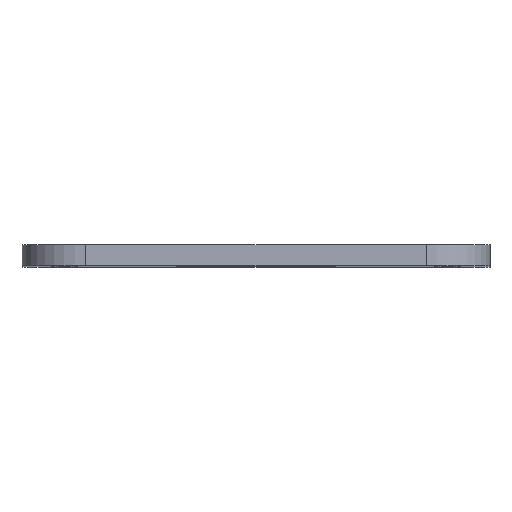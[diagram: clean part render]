
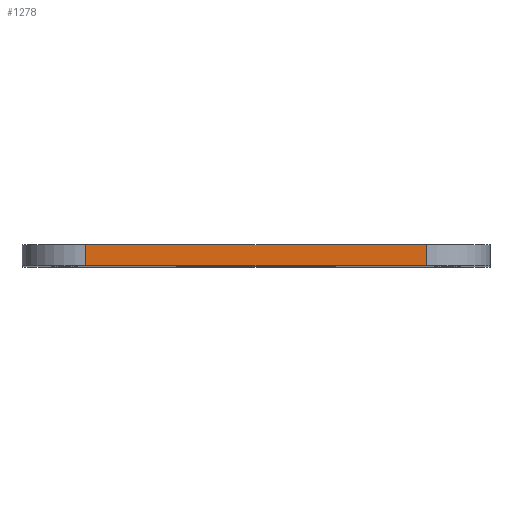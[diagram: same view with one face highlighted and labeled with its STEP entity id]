
A CAD part, top view. The second image highlights one B-rep face of the part: STEP entity #1278.
In plain terms, the highlighted planar face has unit normal (0, 0, 1).
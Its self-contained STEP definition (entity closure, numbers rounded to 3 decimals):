
#44 = PLANE('',#45);
#45 = AXIS2_PLACEMENT_3D('',#46,#47,#48);
#46 = CARTESIAN_POINT('',(42.,-2.,50.));
#47 = DIRECTION('',(-0.,-1.,-0.));
#48 = DIRECTION('',(0.,0.,-1.));
#100 = PLANE('',#101);
#101 = AXIS2_PLACEMENT_3D('',#102,#103,#104);
#102 = CARTESIAN_POINT('',(42.,0.,50.));
#103 = DIRECTION('',(-0.,-1.,-0.));
#104 = DIRECTION('',(0.,0.,-1.));
#195 = VERTEX_POINT('',#196);
#196 = CARTESIAN_POINT('',(58.,-2.,90.));
#211 = CYLINDRICAL_SURFACE('',#212,6.);
#212 = AXIS2_PLACEMENT_3D('',#213,#214,#215);
#213 = CARTESIAN_POINT('',(58.,-2.,84.));
#214 = DIRECTION('',(-0.,1.,-0.));
#215 = DIRECTION('',(1.,0.,-0.));
#223 = EDGE_CURVE('',#195,#224,#226,.T.);
#224 = VERTEX_POINT('',#225);
#225 = CARTESIAN_POINT('',(26.,-2.,90.));
#226 = SURFACE_CURVE('',#227,(#231,#238),.PCURVE_S1.);
#227 = LINE('',#228,#229);
#228 = CARTESIAN_POINT('',(64.,-2.,90.));
#229 = VECTOR('',#230,1.);
#230 = DIRECTION('',(-1.,0.,0.));
#231 = PCURVE('',#44,#232);
#232 = DEFINITIONAL_REPRESENTATION('',(#233),#237);
#233 = LINE('',#234,#235);
#234 = CARTESIAN_POINT('',(-40.,22.));
#235 = VECTOR('',#236,1.);
#236 = DIRECTION('',(0.,-1.));
#237 = ( GEOMETRIC_REPRESENTATION_CONTEXT(2) 
PARAMETRIC_REPRESENTATION_CONTEXT() REPRESENTATION_CONTEXT('2D SPACE',''
  ) );
#238 = PCURVE('',#239,#244);
#239 = PLANE('',#240);
#240 = AXIS2_PLACEMENT_3D('',#241,#242,#243);
#241 = CARTESIAN_POINT('',(64.,-2.,90.));
#242 = DIRECTION('',(0.,0.,1.));
#243 = DIRECTION('',(-1.,0.,0.));
#244 = DEFINITIONAL_REPRESENTATION('',(#245),#249);
#245 = LINE('',#246,#247);
#246 = CARTESIAN_POINT('',(0.,0.));
#247 = VECTOR('',#248,1.);
#248 = DIRECTION('',(1.,0.));
#249 = ( GEOMETRIC_REPRESENTATION_CONTEXT(2) 
PARAMETRIC_REPRESENTATION_CONTEXT() REPRESENTATION_CONTEXT('2D SPACE',''
  ) );
#268 = CYLINDRICAL_SURFACE('',#269,6.);
#269 = AXIS2_PLACEMENT_3D('',#270,#271,#272);
#270 = CARTESIAN_POINT('',(26.,-2.,84.));
#271 = DIRECTION('',(-0.,1.,-0.));
#272 = DIRECTION('',(0.,0.,1.));
#803 = VERTEX_POINT('',#804);
#804 = CARTESIAN_POINT('',(58.,0.,90.));
#826 = EDGE_CURVE('',#803,#827,#829,.T.);
#827 = VERTEX_POINT('',#828);
#828 = CARTESIAN_POINT('',(26.,0.,90.));
#829 = SURFACE_CURVE('',#830,(#834,#841),.PCURVE_S1.);
#830 = LINE('',#831,#832);
#831 = CARTESIAN_POINT('',(64.,0.,90.));
#832 = VECTOR('',#833,1.);
#833 = DIRECTION('',(-1.,0.,0.));
#834 = PCURVE('',#100,#835);
#835 = DEFINITIONAL_REPRESENTATION('',(#836),#840);
#836 = LINE('',#837,#838);
#837 = CARTESIAN_POINT('',(-40.,22.));
#838 = VECTOR('',#839,1.);
#839 = DIRECTION('',(0.,-1.));
#840 = ( GEOMETRIC_REPRESENTATION_CONTEXT(2) 
PARAMETRIC_REPRESENTATION_CONTEXT() REPRESENTATION_CONTEXT('2D SPACE',''
  ) );
#841 = PCURVE('',#239,#842);
#842 = DEFINITIONAL_REPRESENTATION('',(#843),#847);
#843 = LINE('',#844,#845);
#844 = CARTESIAN_POINT('',(0.,-2.));
#845 = VECTOR('',#846,1.);
#846 = DIRECTION('',(1.,0.));
#847 = ( GEOMETRIC_REPRESENTATION_CONTEXT(2) 
PARAMETRIC_REPRESENTATION_CONTEXT() REPRESENTATION_CONTEXT('2D SPACE',''
  ) );
#1231 = EDGE_CURVE('',#224,#827,#1232,.T.);
#1232 = SURFACE_CURVE('',#1233,(#1237,#1244),.PCURVE_S1.);
#1233 = LINE('',#1234,#1235);
#1234 = CARTESIAN_POINT('',(26.,-2.,90.));
#1235 = VECTOR('',#1236,1.);
#1236 = DIRECTION('',(-0.,1.,-0.));
#1237 = PCURVE('',#268,#1238);
#1238 = DEFINITIONAL_REPRESENTATION('',(#1239),#1243);
#1239 = LINE('',#1240,#1241);
#1240 = CARTESIAN_POINT('',(-0.,0.));
#1241 = VECTOR('',#1242,1.);
#1242 = DIRECTION('',(-0.,1.));
#1243 = ( GEOMETRIC_REPRESENTATION_CONTEXT(2) 
PARAMETRIC_REPRESENTATION_CONTEXT() REPRESENTATION_CONTEXT('2D SPACE',''
  ) );
#1244 = PCURVE('',#239,#1245);
#1245 = DEFINITIONAL_REPRESENTATION('',(#1246),#1250);
#1246 = LINE('',#1247,#1248);
#1247 = CARTESIAN_POINT('',(38.,0.));
#1248 = VECTOR('',#1249,1.);
#1249 = DIRECTION('',(0.,-1.));
#1250 = ( GEOMETRIC_REPRESENTATION_CONTEXT(2) 
PARAMETRIC_REPRESENTATION_CONTEXT() REPRESENTATION_CONTEXT('2D SPACE',''
  ) );
#1256 = EDGE_CURVE('',#195,#803,#1257,.T.);
#1257 = SURFACE_CURVE('',#1258,(#1262,#1269),.PCURVE_S1.);
#1258 = LINE('',#1259,#1260);
#1259 = CARTESIAN_POINT('',(58.,-2.,90.));
#1260 = VECTOR('',#1261,1.);
#1261 = DIRECTION('',(-0.,1.,-0.));
#1262 = PCURVE('',#211,#1263);
#1263 = DEFINITIONAL_REPRESENTATION('',(#1264),#1268);
#1264 = LINE('',#1265,#1266);
#1265 = CARTESIAN_POINT('',(-1.571,0.));
#1266 = VECTOR('',#1267,1.);
#1267 = DIRECTION('',(-0.,1.));
#1268 = ( GEOMETRIC_REPRESENTATION_CONTEXT(2) 
PARAMETRIC_REPRESENTATION_CONTEXT() REPRESENTATION_CONTEXT('2D SPACE',''
  ) );
#1269 = PCURVE('',#239,#1270);
#1270 = DEFINITIONAL_REPRESENTATION('',(#1271),#1275);
#1271 = LINE('',#1272,#1273);
#1272 = CARTESIAN_POINT('',(6.,0.));
#1273 = VECTOR('',#1274,1.);
#1274 = DIRECTION('',(0.,-1.));
#1275 = ( GEOMETRIC_REPRESENTATION_CONTEXT(2) 
PARAMETRIC_REPRESENTATION_CONTEXT() REPRESENTATION_CONTEXT('2D SPACE',''
  ) );
#1278 = ADVANCED_FACE('',(#1279),#239,.T.);
#1279 = FACE_BOUND('',#1280,.T.);
#1280 = EDGE_LOOP('',(#1281,#1282,#1283,#1284));
#1281 = ORIENTED_EDGE('',*,*,#223,.F.);
#1282 = ORIENTED_EDGE('',*,*,#1256,.T.);
#1283 = ORIENTED_EDGE('',*,*,#826,.T.);
#1284 = ORIENTED_EDGE('',*,*,#1231,.F.);
